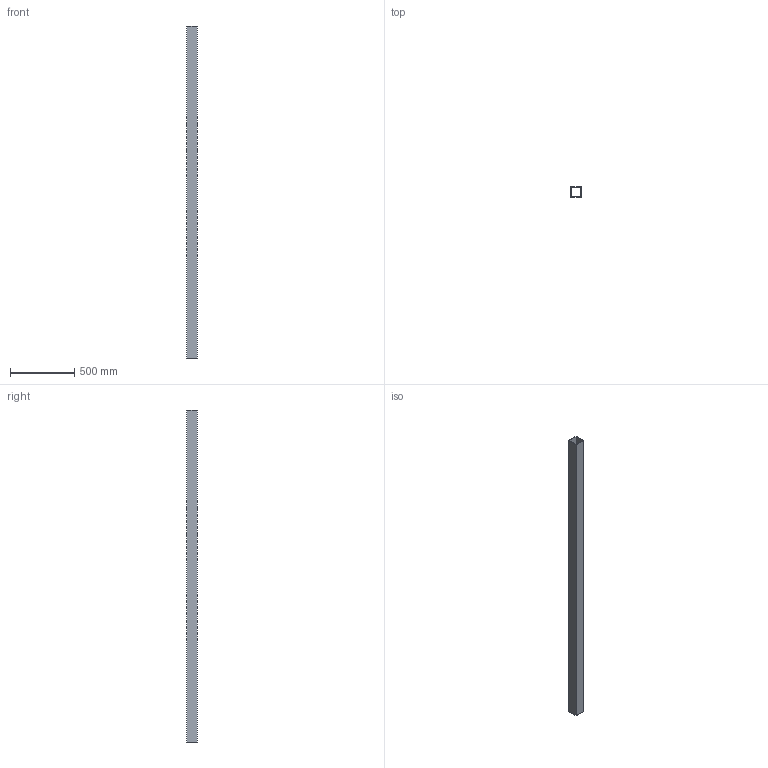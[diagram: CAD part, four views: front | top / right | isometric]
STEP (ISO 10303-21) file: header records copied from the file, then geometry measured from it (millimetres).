
FILE_DESCRIPTION(('Open CASCADE Model'),'2;1');
FILE_NAME('Open CASCADE Shape Model','2026-10-19T10:09:26',('Author'),( 'Open CASCADE'),'Open CASCADE STEP processor 8.0','Open CASCADE 8.0' ,'Unknown');
FILE_SCHEMA(('AUTOMOTIVE_DESIGN { 1 0 10303 214 1 1 1 1 }'));
Length unit declared in the file: millimetre
Products named in the file (1): AC_SHS80x80x4_L2578590 165
Bounding box: 80 x 80 x 2578.59 mm (x, y, z)
Volume: 3135565.6 mm3; surface area: 1570214.8 mm2
Topology: 1 solids, 1 shells, 10 faces, 24 edges, 16 vertices
Faces by surface type: plane 10
Entity records: 614 total; most frequent: CARTESIAN_POINT 99, DIRECTION 94, LINE 72, VECTOR 72, ORIENTED_EDGE 48, PCURVE 48, DEFINITIONAL_REPRESENTATION 48, EDGE_CURVE 24
